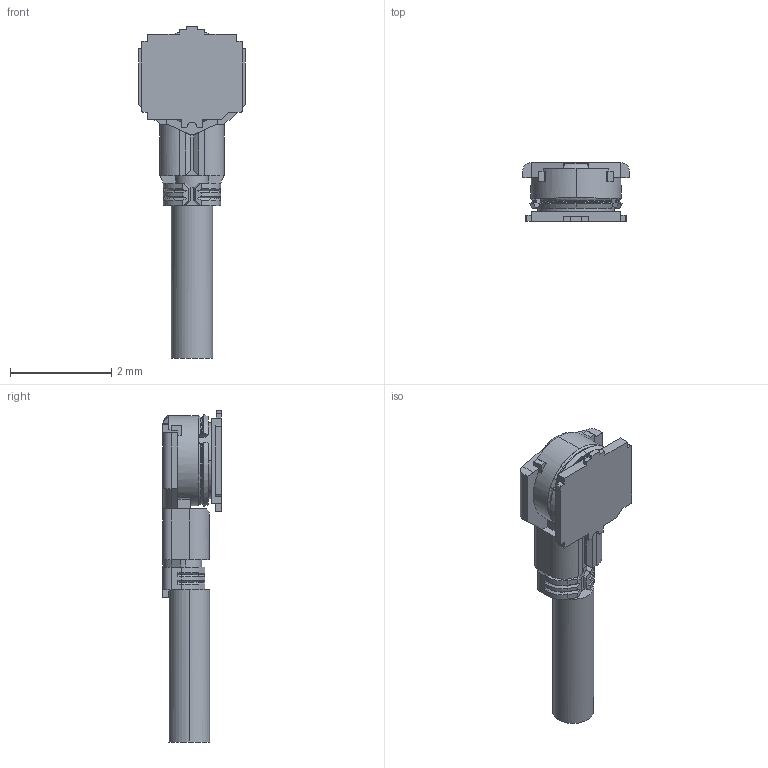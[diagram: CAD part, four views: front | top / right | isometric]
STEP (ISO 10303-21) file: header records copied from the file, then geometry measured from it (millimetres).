
FILE_DESCRIPTION (( 'STEP AP203' ), '1' );
FILE_NAME ('20449-001E+20611-001RC MATING STEP R5R2 ALL.STEP', '2018-04-26T01:48:54', ( '' ), ( '' ), 'SwSTEP 2.0', 'SolidWorks 2017', '' );
FILE_SCHEMA (( 'CONFIG_CONTROL_DESIGN' ));
Length unit declared in the file: millimetre
Products named in the file (1): 20449-001E+20611-001RC MATING STEP R5R2 ALL
Bounding box: 2.1 x 1.16 x 6.55 mm (x, y, z)
Volume: 6.2 mm3; surface area: 33.5 mm2
Topology: 1 solids, 1 shells, 225 faces, 597 edges, 379 vertices
Faces by surface type: plane 154, cylinder 35, cone 19, torus 13, bspline 4
Entity records: 7172 total; most frequent: CARTESIAN_POINT 1530, ORIENTED_EDGE 1194, DIRECTION 1121, EDGE_CURVE 597, LINE 421, VECTOR 421, VERTEX_POINT 379, AXIS2_PLACEMENT_3D 350
